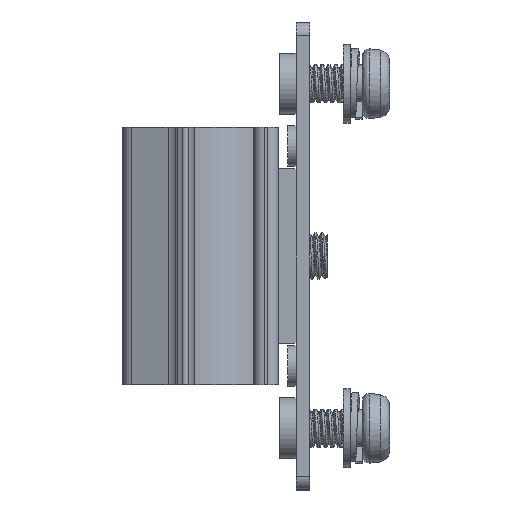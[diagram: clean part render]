
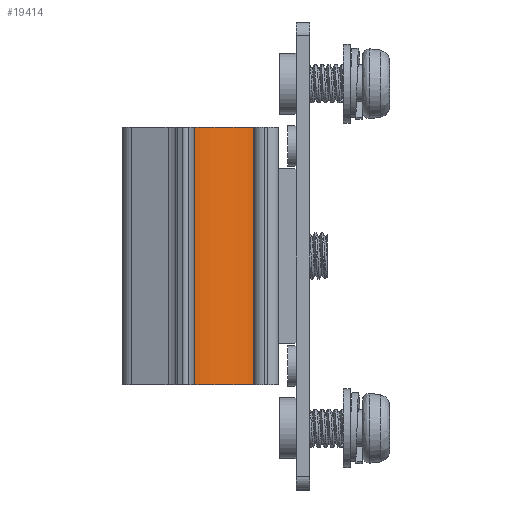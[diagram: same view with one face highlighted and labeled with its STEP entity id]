
A CAD part, left-side view. The second image highlights one B-rep face of the part: STEP entity #19414.
In plain terms, the highlighted cylindrical face has radius 6.706 mm (diameter 13.412 mm), a partial arc.
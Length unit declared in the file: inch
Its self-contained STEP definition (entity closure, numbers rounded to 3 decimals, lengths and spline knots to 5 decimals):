
#1137 = EDGE_CURVE ( 'NONE', #7352, #8274, #21145, .T. ) ;
#2733 = AXIS2_PLACEMENT_3D ( 'NONE', #26866, #26842, #26786 ) ;
#3409 = EDGE_CURVE ( 'NONE', #15035, #9856, #15173, .T. ) ;
#5017 = DIRECTION ( 'NONE',  ( -1., 0., 0. ) ) ;
#5048 = DIRECTION ( 'NONE',  ( 0., 0., 1. ) ) ;
#5053 = CARTESIAN_POINT ( 'NONE',  ( -0.48006, 0.0393, -0.37402 ) ) ;
#6501 = CARTESIAN_POINT ( 'NONE',  ( -0.35833, 0.27359, 0.37402 ) ) ;
#6726 = ORIENTED_EDGE ( 'NONE', *, *, #22388, .T. ) ;
#7219 = DIRECTION ( 'NONE',  ( -1., 0., 0. ) ) ;
#7292 = CARTESIAN_POINT ( 'NONE',  ( -0.48006, 0.0393, 0.37402 ) ) ;
#7352 = VERTEX_POINT ( 'NONE', #24461 ) ;
#7821 = DIRECTION ( 'NONE',  ( 0., 0., -1. ) ) ;
#7920 = AXIS2_PLACEMENT_3D ( 'NONE', #5053, #5048, #5017 ) ;
#8078 = ORIENTED_EDGE ( 'NONE', *, *, #1137, .F. ) ;
#8274 = VERTEX_POINT ( 'NONE', #6501 ) ;
#9360 = AXIS2_PLACEMENT_3D ( 'NONE', #7292, #7821, #7219 ) ;
#9856 = VERTEX_POINT ( 'NONE', #17490 ) ;
#10608 = CIRCLE ( 'NONE', #2733, 0.26402 ) ;
#10640 = VECTOR ( 'NONE', #17958, 39.37008 ) ;
#11857 = CARTESIAN_POINT ( 'NONE',  ( -0.21616, 0.04718, 0.37402 ) ) ;
#13258 = CIRCLE ( 'NONE', #7920, 0.26402 ) ;
#15035 = VERTEX_POINT ( 'NONE', #11857 ) ;
#15173 = LINE ( 'NONE', #17871, #10640 ) ;
#15486 = EDGE_CURVE ( 'NONE', #9856, #7352, #13258, .T. ) ;
#17490 = CARTESIAN_POINT ( 'NONE',  ( -0.21616, 0.04718, -0.37402 ) ) ;
#17871 = CARTESIAN_POINT ( 'NONE',  ( -0.21616, 0.04718, 0.37402 ) ) ;
#17958 = DIRECTION ( 'NONE',  ( 0., 0., -1. ) ) ;
#18464 = CYLINDRICAL_SURFACE ( 'NONE', #9360, 0.26402 ) ;
#19414 = ADVANCED_FACE ( 'NONE', ( #26753 ), #18464, .F. ) ;
#20327 = ORIENTED_EDGE ( 'NONE', *, *, #3409, .F. ) ;
#21145 = LINE ( 'NONE', #27962, #22376 ) ;
#22376 = VECTOR ( 'NONE', #27684, 39.37008 ) ;
#22388 = EDGE_CURVE ( 'NONE', #15035, #8274, #10608, .T. ) ;
#23559 = ORIENTED_EDGE ( 'NONE', *, *, #15486, .F. ) ;
#24369 = EDGE_LOOP ( 'NONE', ( #8078, #23559, #20327, #6726 ) ) ;
#24461 = CARTESIAN_POINT ( 'NONE',  ( -0.35833, 0.27359, -0.37402 ) ) ;
#26753 = FACE_OUTER_BOUND ( 'NONE', #24369, .T. ) ;
#26786 = DIRECTION ( 'NONE',  ( -1., 0., 0. ) ) ;
#26842 = DIRECTION ( 'NONE',  ( 0., 0., 1. ) ) ;
#26866 = CARTESIAN_POINT ( 'NONE',  ( -0.48006, 0.0393, 0.37402 ) ) ;
#27684 = DIRECTION ( 'NONE',  ( 0., 0., 1. ) ) ;
#27962 = CARTESIAN_POINT ( 'NONE',  ( -0.35833, 0.27359, 0.37402 ) ) ;
